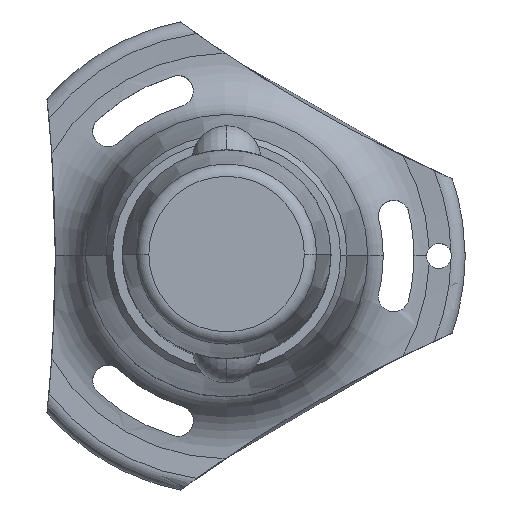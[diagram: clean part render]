
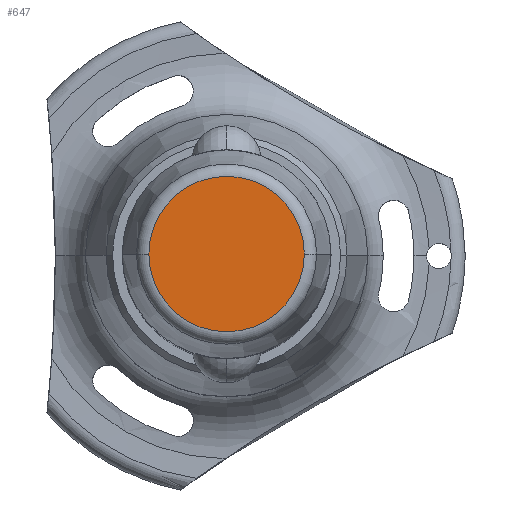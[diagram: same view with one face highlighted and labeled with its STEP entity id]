
A CAD part, top view. The second image highlights one B-rep face of the part: STEP entity #647.
In plain terms, the highlighted planar face has unit normal (0, 0, 1).
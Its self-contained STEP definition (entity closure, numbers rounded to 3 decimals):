
#25 = CIRCLE ( 'NONE', #1726, 9.302 ) ;
#230 = ORIENTED_EDGE ( 'NONE', *, *, #1904, .T. ) ;
#242 = DIRECTION ( 'NONE',  ( 1., 0., 0. ) ) ;
#383 = DIRECTION ( 'NONE',  ( 1., 0., 0. ) ) ;
#398 = PLANE ( 'NONE',  #1240 ) ;
#430 = VERTEX_POINT ( 'NONE', #1595 ) ;
#521 = DIRECTION ( 'NONE',  ( 0., 0., 1. ) ) ;
#647 = ADVANCED_FACE ( 'NONE', ( #1713 ), #398, .T. ) ;
#1072 = ORIENTED_EDGE ( 'NONE', *, *, #1727, .T. ) ;
#1240 = AXIS2_PLACEMENT_3D ( 'NONE', #1542, #1510, #383 ) ;
#1428 = DIRECTION ( 'NONE',  ( 1., 0., 0. ) ) ;
#1493 = AXIS2_PLACEMENT_3D ( 'NONE', #2503, #2275, #242 ) ;
#1510 = DIRECTION ( 'NONE',  ( 0., 0., 1. ) ) ;
#1542 = CARTESIAN_POINT ( 'NONE',  ( 0., 0., 22. ) ) ;
#1565 = VERTEX_POINT ( 'NONE', #1833 ) ;
#1595 = CARTESIAN_POINT ( 'NONE',  ( 9.302, 0., 22. ) ) ;
#1713 = FACE_OUTER_BOUND ( 'NONE', #2114, .T. ) ;
#1726 = AXIS2_PLACEMENT_3D ( 'NONE', #2855, #521, #1428 ) ;
#1727 = EDGE_CURVE ( 'NONE', #430, #1565, #25, .T. ) ;
#1833 = CARTESIAN_POINT ( 'NONE',  ( -9.302, 0., 22. ) ) ;
#1904 = EDGE_CURVE ( 'NONE', #1565, #430, #1916, .T. ) ;
#1916 = CIRCLE ( 'NONE', #1493, 9.302 ) ;
#2114 = EDGE_LOOP ( 'NONE', ( #1072, #230 ) ) ;
#2275 = DIRECTION ( 'NONE',  ( 0., 0., 1. ) ) ;
#2503 = CARTESIAN_POINT ( 'NONE',  ( 0., 0., 22. ) ) ;
#2855 = CARTESIAN_POINT ( 'NONE',  ( 0., 0., 22. ) ) ;
